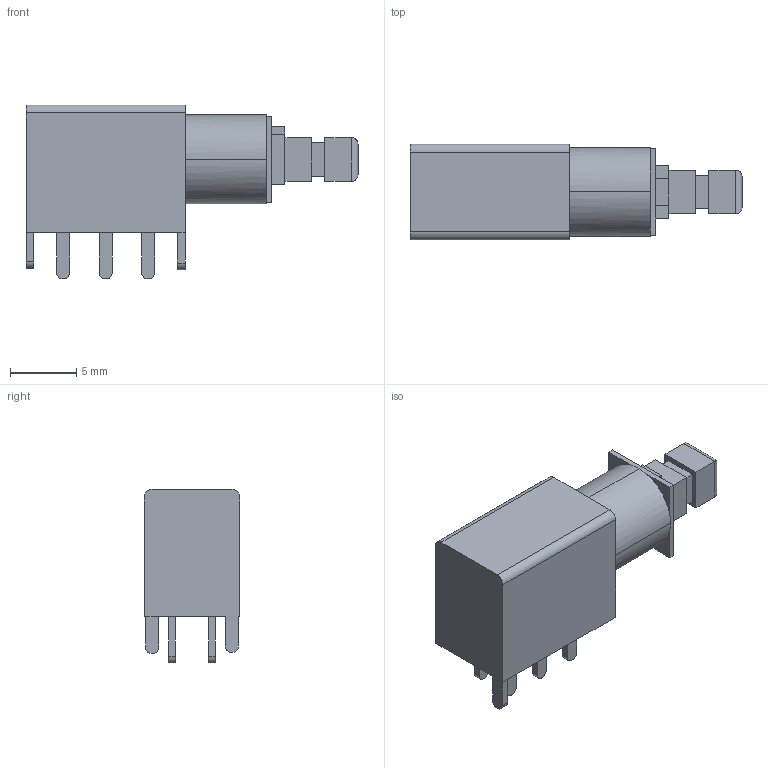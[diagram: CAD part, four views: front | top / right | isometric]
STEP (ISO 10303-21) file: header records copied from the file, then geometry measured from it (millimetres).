
FILE_DESCRIPTION (( 'STEP AP214' ), '1' );
FILE_NAME ('SPPJ222200.STEP', '2010-02-05T08:17:02', ( ' ' ), ( '' ), 'SwSTEP 2.0', 'SolidWorks 2007', '' );
FILE_SCHEMA (( 'AUTOMOTIVE_DESIGN' ));
Length unit declared in the file: millimetre
Products named in the file (1): SPPJ222200
Bounding box: 25 x 7.2 x 13.1 mm (x, y, z)
Volume: 1143.9 mm3; surface area: 858.2 mm2
Topology: 1 solids, 1 shells, 104 faces, 256 edges, 164 vertices
Faces by surface type: plane 86, cylinder 18
Entity records: 4187 total; most frequent: CARTESIAN_POINT 537, ORIENTED_EDGE 512, DIRECTION 502, EDGE_CURVE 256, VECTOR 212, LINE 212, VERTEX_POINT 164, AXIS2_PLACEMENT_3D 145
